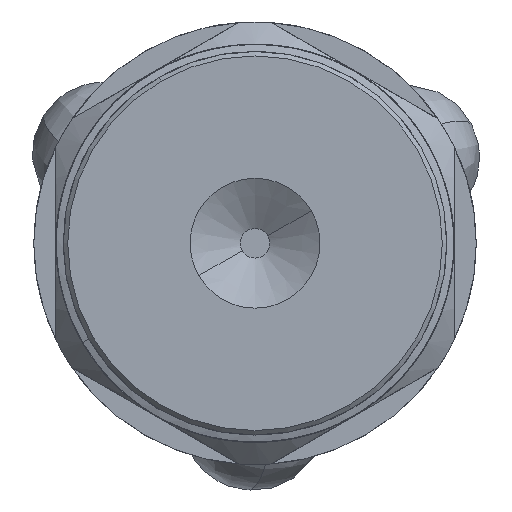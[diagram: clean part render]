
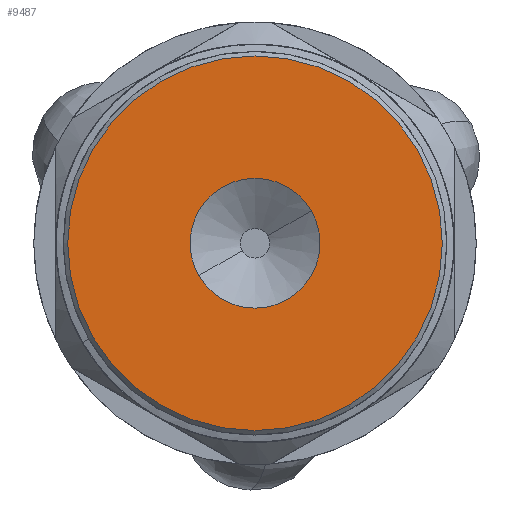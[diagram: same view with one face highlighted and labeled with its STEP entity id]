
A CAD part, front view. The second image highlights one B-rep face of the part: STEP entity #9487.
In plain terms, the highlighted planar face has unit normal (0, -1, 0).
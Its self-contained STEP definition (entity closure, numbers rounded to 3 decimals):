
#260 = AXIS2_PLACEMENT_3D ( 'NONE', #9992, #519, #11563 ) ;
#519 = DIRECTION ( 'NONE',  ( 0., 1., 0. ) ) ;
#1463 = DIRECTION ( 'NONE',  ( -0.5, 0., 0.866 ) ) ;
#1470 = VERTEX_POINT ( 'NONE', #11048 ) ;
#1985 = CARTESIAN_POINT ( 'NONE',  ( -22.896, -62.14, 75. ) ) ;
#2207 = CARTESIAN_POINT ( 'NONE',  ( -20.696, -62.14, 71.189 ) ) ;
#3579 = DIRECTION ( 'NONE',  ( 0.5, 0., -0.866 ) ) ;
#4277 = EDGE_LOOP ( 'NONE', ( #12313, #16556 ) ) ;
#5838 = AXIS2_PLACEMENT_3D ( 'NONE', #18852, #9435, #20448 ) ;
#6479 = CIRCLE ( 'NONE', #13629, 12.7 ) ;
#6486 = DIRECTION ( 'NONE',  ( 0., -1., 0. ) ) ;
#6575 = CARTESIAN_POINT ( 'NONE',  ( -16.546, -62.14, 64.001 ) ) ;
#6845 = VERTEX_POINT ( 'NONE', #6575 ) ;
#7957 = PLANE ( 'NONE',  #14820 ) ;
#8008 = FACE_OUTER_BOUND ( 'NONE', #20240, .T. ) ;
#8248 = EDGE_CURVE ( 'NONE', #12399, #19104, #19398, .T. ) ;
#8422 = CIRCLE ( 'NONE', #260, 4.4 ) ;
#8933 = CARTESIAN_POINT ( 'NONE',  ( -25.096, -62.14, 78.811 ) ) ;
#9435 = DIRECTION ( 'NONE',  ( 0., -1., 0. ) ) ;
#9487 = ADVANCED_FACE ( 'NONE', ( #12149, #8008 ), #7957, .T. ) ;
#9992 = CARTESIAN_POINT ( 'NONE',  ( -22.896, -62.14, 75. ) ) ;
#10921 = DIRECTION ( 'NONE',  ( 0., -1., 0. ) ) ;
#11048 = CARTESIAN_POINT ( 'NONE',  ( -29.246, -62.14, 85.999 ) ) ;
#11563 = DIRECTION ( 'NONE',  ( 0.5, 0., -0.866 ) ) ;
#11720 = ORIENTED_EDGE ( 'NONE', *, *, #19748, .T. ) ;
#11920 = EDGE_CURVE ( 'NONE', #6845, #1470, #12597, .T. ) ;
#12149 = FACE_BOUND ( 'NONE', #4277, .T. ) ;
#12313 = ORIENTED_EDGE ( 'NONE', *, *, #12982, .T. ) ;
#12314 = AXIS2_PLACEMENT_3D ( 'NONE', #1985, #12995, #3579 ) ;
#12399 = VERTEX_POINT ( 'NONE', #8933 ) ;
#12597 = CIRCLE ( 'NONE', #5838, 12.7 ) ;
#12982 = EDGE_CURVE ( 'NONE', #19104, #12399, #8422, .T. ) ;
#12995 = DIRECTION ( 'NONE',  ( 0., 1., 0. ) ) ;
#13629 = AXIS2_PLACEMENT_3D ( 'NONE', #20361, #10921, #1463 ) ;
#14820 = AXIS2_PLACEMENT_3D ( 'NONE', #15915, #6486, #17507 ) ;
#15915 = CARTESIAN_POINT ( 'NONE',  ( -40.453, -62.14, 79.704 ) ) ;
#16556 = ORIENTED_EDGE ( 'NONE', *, *, #8248, .T. ) ;
#17507 = DIRECTION ( 'NONE',  ( 0.5, 0., -0.866 ) ) ;
#18294 = ORIENTED_EDGE ( 'NONE', *, *, #11920, .T. ) ;
#18852 = CARTESIAN_POINT ( 'NONE',  ( -22.896, -62.14, 75. ) ) ;
#19104 = VERTEX_POINT ( 'NONE', #2207 ) ;
#19398 = CIRCLE ( 'NONE', #12314, 4.4 ) ;
#19748 = EDGE_CURVE ( 'NONE', #1470, #6845, #6479, .T. ) ;
#20240 = EDGE_LOOP ( 'NONE', ( #11720, #18294 ) ) ;
#20361 = CARTESIAN_POINT ( 'NONE',  ( -22.896, -62.14, 75. ) ) ;
#20448 = DIRECTION ( 'NONE',  ( -0.5, 0., 0.866 ) ) ;
